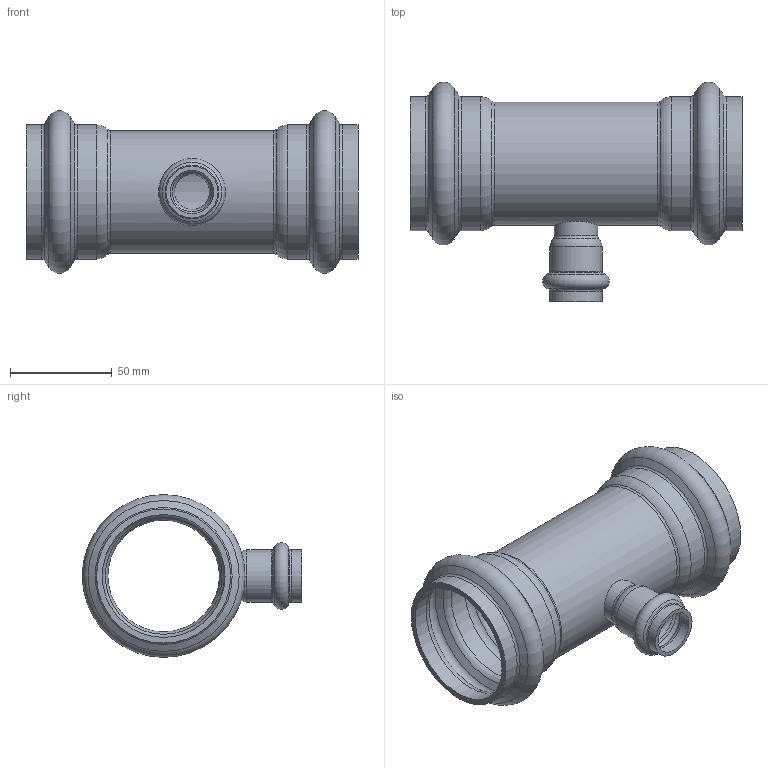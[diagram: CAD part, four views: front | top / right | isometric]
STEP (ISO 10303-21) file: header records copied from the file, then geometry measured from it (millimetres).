
FILE_DESCRIPTION(/* description */ ('VIC TEE RED. BRANCH STYLE P593 (P X P X P)','CAx-IF Rec.Pracs.---Representation and Presentation of Product Manufacturing Information (PMI)---4.0---2014-10-13'),/* implementation_level */ '2;1');
FILE_NAME(/* name */ 'C:\Users\Vjadhav\AppData\Roaming\Autodesk\ApplicationPlugins\Back Up\Victaulic_SS-Vic-Press-TP 304_Tee Reducing_Style P593 (VP)\Victaulic_SS-Vic-Press-TP 304_Tee Reducing_Style P593 (VP)_02.0x0.50 (50x15).stp',/* time_stamp */ '2020-08-12T18:32:34+05:00',/* author */ ('cgray'),/* organization */ ('Victaulic'),/* preprocessor_version */ 'ST-DEVELOPER v17.2',/* originating_system */ 'Autodesk Inventor 2019',/* authorisation */ '');
FILE_SCHEMA (('AP242_MANAGED_MODEL_BASED_3D_ENGINEERING_MIM_LF { 1 0 10303 442 1 1 4 }'));
Length unit declared in the file: inch
Products named in the file (1): P593-02.0x0.5
Bounding box: 163.07 x 107.78 x 79.93 mm (x, y, z)
Volume: 102054.4 mm3; surface area: 76497.5 mm2
Topology: 1 solids, 1 shells, 61 faces, 220 edges, 160 vertices
Faces by surface type: torus 30, cylinder 16, cone 12, plane 3
Full cylindrical faces by diameter (mm): 17.12 x1, 21.336 x3, 25.552 x2, 54.788 x1, 60.325 x5, 65.862 x4
Entity records: 2793 total; most frequent: DIRECTION 544, CARTESIAN_POINT 531, ORIENTED_EDGE 440, AXIS2_PLACEMENT_3D 257, EDGE_CURVE 220, CIRCLE 182, VERTEX_POINT 160, EDGE_LOOP 64
